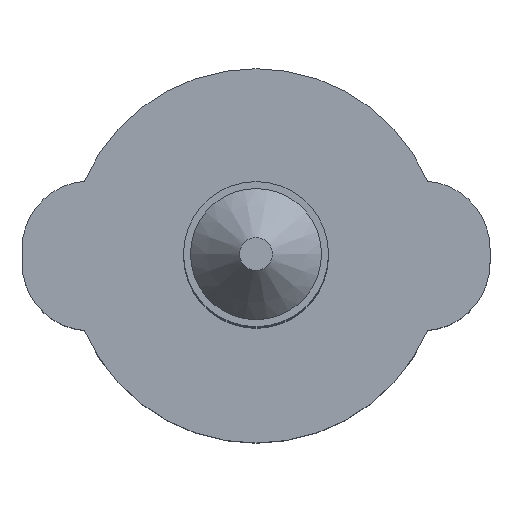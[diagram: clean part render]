
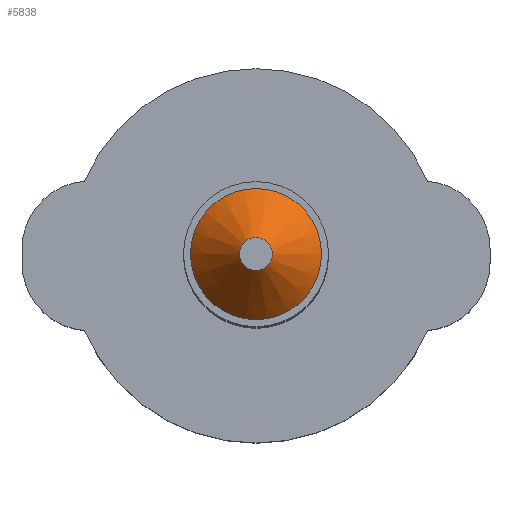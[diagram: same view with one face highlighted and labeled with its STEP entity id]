
A CAD part, top view. The second image highlights one B-rep face of the part: STEP entity #5838.
In plain terms, the highlighted conical face has half-angle 41.186 degrees and reference radius 1.4 mm.
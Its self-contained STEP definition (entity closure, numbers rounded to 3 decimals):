
#5773 = CYLINDRICAL_SURFACE('',#5774,1.4);
#5774 = AXIS2_PLACEMENT_3D('',#5775,#5776,#5777);
#5775 = CARTESIAN_POINT('',(0.,0.,3.));
#5776 = DIRECTION('',(-0.,-0.,-1.));
#5777 = DIRECTION('',(1.,0.,0.));
#5790 = VERTEX_POINT('',#5791);
#5791 = CARTESIAN_POINT('',(1.4,0.,24.8));
#5812 = EDGE_CURVE('',#5790,#5790,#5813,.T.);
#5813 = SURFACE_CURVE('',#5814,(#5819,#5826),.PCURVE_S1.);
#5814 = CIRCLE('',#5815,1.4);
#5815 = AXIS2_PLACEMENT_3D('',#5816,#5817,#5818);
#5816 = CARTESIAN_POINT('',(0.,0.,24.8));
#5817 = DIRECTION('',(0.,0.,1.));
#5818 = DIRECTION('',(1.,0.,0.));
#5819 = PCURVE('',#5773,#5820);
#5820 = DEFINITIONAL_REPRESENTATION('',(#5821),#5825);
#5821 = LINE('',#5822,#5823);
#5822 = CARTESIAN_POINT('',(-0.,-21.8));
#5823 = VECTOR('',#5824,1.);
#5824 = DIRECTION('',(-1.,0.));
#5825 = ( GEOMETRIC_REPRESENTATION_CONTEXT(2) 
PARAMETRIC_REPRESENTATION_CONTEXT() REPRESENTATION_CONTEXT('2D SPACE',''
  ) );
#5826 = PCURVE('',#5827,#5832);
#5827 = CONICAL_SURFACE('',#5828,1.4,0.719);
#5828 = AXIS2_PLACEMENT_3D('',#5829,#5830,#5831);
#5829 = CARTESIAN_POINT('',(0.,0.,24.8));
#5830 = DIRECTION('',(-0.,-0.,-1.));
#5831 = DIRECTION('',(1.,0.,-0.));
#5832 = DEFINITIONAL_REPRESENTATION('',(#5833),#5836);
#5833 = B_SPLINE_CURVE_WITH_KNOTS('',1,(#5834,#5835),.UNSPECIFIED.,.F.,
  .F.,(2,2),(0.,6.283),.PIECEWISE_BEZIER_KNOTS.);
#5834 = CARTESIAN_POINT('',(0.,0.));
#5835 = CARTESIAN_POINT('',(-6.283,0.));
#5836 = ( GEOMETRIC_REPRESENTATION_CONTEXT(2) 
PARAMETRIC_REPRESENTATION_CONTEXT() REPRESENTATION_CONTEXT('2D SPACE',''
  ) );
#5838 = ADVANCED_FACE('',(#5839),#5827,.T.);
#5839 = FACE_BOUND('',#5840,.T.);
#5840 = EDGE_LOOP('',(#5841,#5870,#5891,#5892));
#5841 = ORIENTED_EDGE('',*,*,#5842,.F.);
#5842 = EDGE_CURVE('',#5843,#5843,#5845,.T.);
#5843 = VERTEX_POINT('',#5844);
#5844 = CARTESIAN_POINT('',(0.35,0.,26.));
#5845 = SURFACE_CURVE('',#5846,(#5851,#5858),.PCURVE_S1.);
#5846 = CIRCLE('',#5847,0.35);
#5847 = AXIS2_PLACEMENT_3D('',#5848,#5849,#5850);
#5848 = CARTESIAN_POINT('',(0.,0.,26.));
#5849 = DIRECTION('',(0.,0.,1.));
#5850 = DIRECTION('',(1.,0.,-0.));
#5851 = PCURVE('',#5827,#5852);
#5852 = DEFINITIONAL_REPRESENTATION('',(#5853),#5857);
#5853 = LINE('',#5854,#5855);
#5854 = CARTESIAN_POINT('',(-0.,-1.2));
#5855 = VECTOR('',#5856,1.);
#5856 = DIRECTION('',(-1.,-0.));
#5857 = ( GEOMETRIC_REPRESENTATION_CONTEXT(2) 
PARAMETRIC_REPRESENTATION_CONTEXT() REPRESENTATION_CONTEXT('2D SPACE',''
  ) );
#5858 = PCURVE('',#5859,#5864);
#5859 = PLANE('',#5860);
#5860 = AXIS2_PLACEMENT_3D('',#5861,#5862,#5863);
#5861 = CARTESIAN_POINT('',(0.,0.,26.));
#5862 = DIRECTION('',(0.,0.,1.));
#5863 = DIRECTION('',(1.,0.,-0.));
#5864 = DEFINITIONAL_REPRESENTATION('',(#5865),#5869);
#5865 = CIRCLE('',#5866,0.35);
#5866 = AXIS2_PLACEMENT_2D('',#5867,#5868);
#5867 = CARTESIAN_POINT('',(0.,0.));
#5868 = DIRECTION('',(1.,0.));
#5869 = ( GEOMETRIC_REPRESENTATION_CONTEXT(2) 
PARAMETRIC_REPRESENTATION_CONTEXT() REPRESENTATION_CONTEXT('2D SPACE',''
  ) );
#5870 = ORIENTED_EDGE('',*,*,#5871,.F.);
#5871 = EDGE_CURVE('',#5790,#5843,#5872,.T.);
#5872 = SEAM_CURVE('',#5873,(#5877,#5884),.PCURVE_S1.);
#5873 = LINE('',#5874,#5875);
#5874 = CARTESIAN_POINT('',(1.4,0.,24.8));
#5875 = VECTOR('',#5876,1.);
#5876 = DIRECTION('',(-0.659,0.,0.753));
#5877 = PCURVE('',#5827,#5878);
#5878 = DEFINITIONAL_REPRESENTATION('',(#5879),#5883);
#5879 = LINE('',#5880,#5881);
#5880 = CARTESIAN_POINT('',(-6.283,0.));
#5881 = VECTOR('',#5882,1.);
#5882 = DIRECTION('',(-0.,-1.));
#5883 = ( GEOMETRIC_REPRESENTATION_CONTEXT(2) 
PARAMETRIC_REPRESENTATION_CONTEXT() REPRESENTATION_CONTEXT('2D SPACE',''
  ) );
#5884 = PCURVE('',#5827,#5885);
#5885 = DEFINITIONAL_REPRESENTATION('',(#5886),#5890);
#5886 = LINE('',#5887,#5888);
#5887 = CARTESIAN_POINT('',(0.,-0.));
#5888 = VECTOR('',#5889,1.);
#5889 = DIRECTION('',(-0.,-1.));
#5890 = ( GEOMETRIC_REPRESENTATION_CONTEXT(2) 
PARAMETRIC_REPRESENTATION_CONTEXT() REPRESENTATION_CONTEXT('2D SPACE',''
  ) );
#5891 = ORIENTED_EDGE('',*,*,#5812,.T.);
#5892 = ORIENTED_EDGE('',*,*,#5871,.T.);
